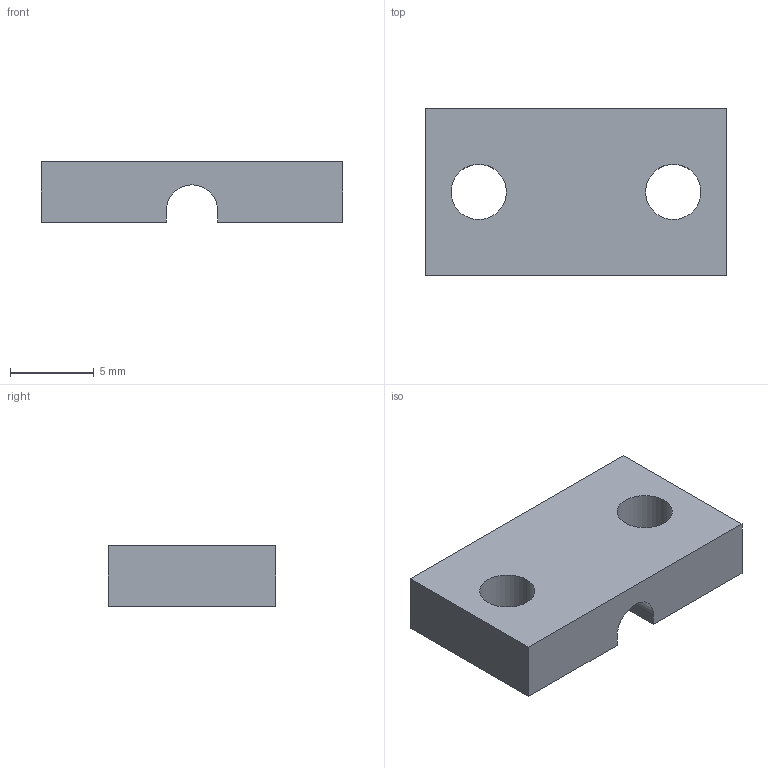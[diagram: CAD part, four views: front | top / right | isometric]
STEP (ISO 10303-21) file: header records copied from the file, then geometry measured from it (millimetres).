
FILE_DESCRIPTION(('Open CASCADE Model'),'2;1');
FILE_NAME('Open CASCADE Shape Model','2026-07-22T08:32:17',('Author'),( 'Open CASCADE'),'Open CASCADE STEP processor 7.9','Open CASCADE 7.9' ,'Unknown');
FILE_SCHEMA(('AUTOMOTIVE_DESIGN { 1 0 10303 214 1 1 1 1 }'));
Length unit declared in the file: millimetre
Products named in the file (1): Open CASCADE STEP translator 7.9 3
Bounding box: 18 x 10 x 3.6 mm (x, y, z)
Volume: 528.5 mm3; surface area: 621.9 mm2
Topology: 1 solids, 1 shells, 13 faces, 33 edges, 22 vertices
Faces by surface type: plane 9, cylinder 4
Full cylindrical faces by diameter (mm): 3.3 x2
Entity records: 832 total; most frequent: CARTESIAN_POINT 162, DIRECTION 117, LINE 71, VECTOR 71, ORIENTED_EDGE 66, PCURVE 66, DEFINITIONAL_REPRESENTATION 66, EDGE_CURVE 33
